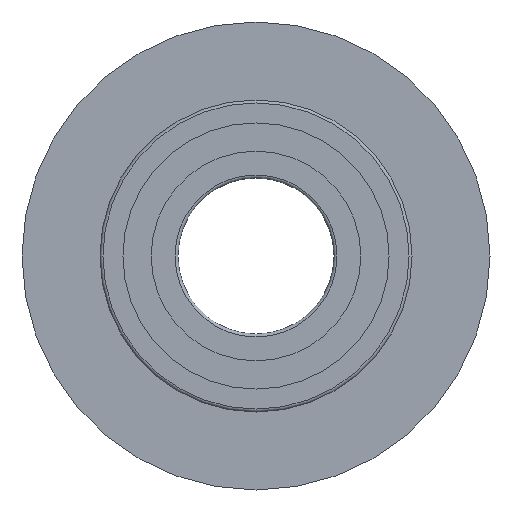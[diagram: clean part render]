
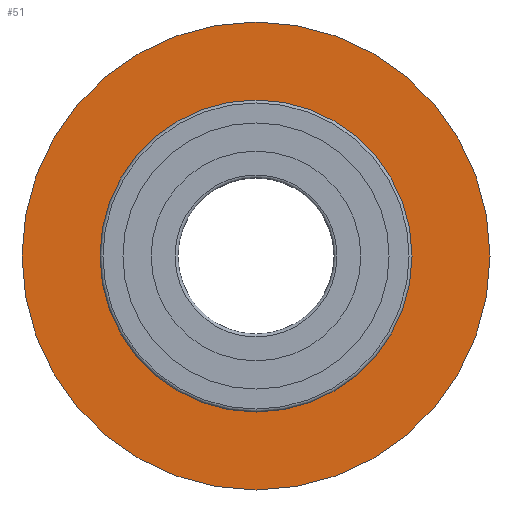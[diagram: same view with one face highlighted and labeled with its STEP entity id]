
A CAD part, left-side view. The second image highlights one B-rep face of the part: STEP entity #51.
In plain terms, the highlighted planar face has unit normal (-1, 0, 0).
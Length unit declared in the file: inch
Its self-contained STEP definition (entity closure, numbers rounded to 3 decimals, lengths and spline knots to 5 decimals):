
#24=CARTESIAN_POINT('',(112.91139,124.47152,0.));
#25=VERTEX_POINT('',#24);
#26=CARTESIAN_POINT('',(112.91139,112.47152,0.));
#27=DIRECTION('',(-1.,0.,0.));
#28=DIRECTION('',(0.,1.,0.));
#29=AXIS2_PLACEMENT_3D('',#26,#27,#28);
#30=CIRCLE('',#29,12.);
#31=EDGE_CURVE('',#25,#25,#30,.T.);
#32=ORIENTED_EDGE('',*,*,#31,.T.);
#33=EDGE_LOOP('',(#32));
#34=FACE_OUTER_BOUND('',#33,.T.);
#35=CARTESIAN_POINT('',(112.91139,120.47152,0.));
#36=VERTEX_POINT('',#35);
#37=CARTESIAN_POINT('',(112.91139,112.47152,0.));
#38=DIRECTION('',(-1.,0.,0.));
#39=DIRECTION('',(0.,1.,0.));
#40=AXIS2_PLACEMENT_3D('',#37,#38,#39);
#41=CIRCLE('',#40,8.);
#42=EDGE_CURVE('',#36,#36,#41,.T.);
#43=ORIENTED_EDGE('',*,*,#42,.F.);
#44=EDGE_LOOP('',(#43));
#45=FACE_BOUND('',#44,.T.);
#46=CARTESIAN_POINT('',(112.91139,122.47152,0.));
#47=DIRECTION('',(-1.,0.,0.));
#48=DIRECTION('',(0.,1.,0.));
#49=AXIS2_PLACEMENT_3D('',#46,#47,#48);
#50=PLANE('',#49);
#51=ADVANCED_FACE('',(#34,#45),#50,.T.);
